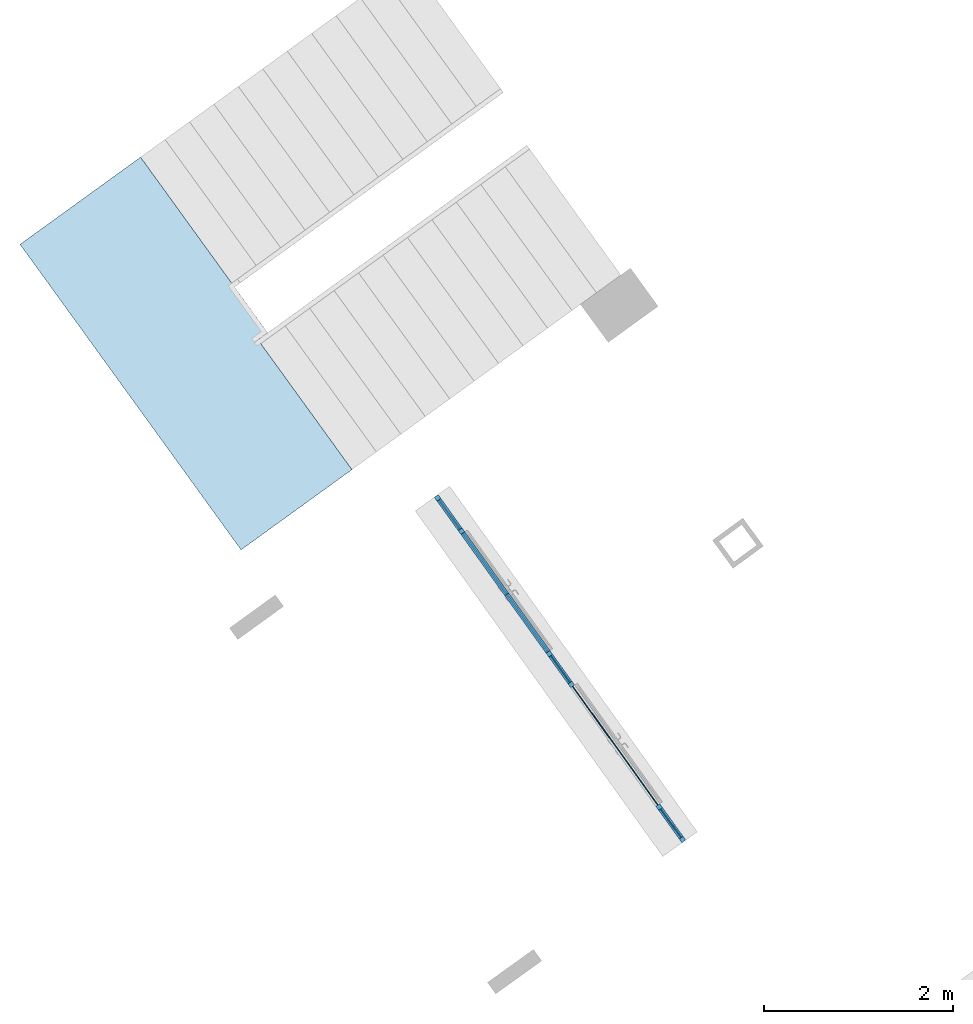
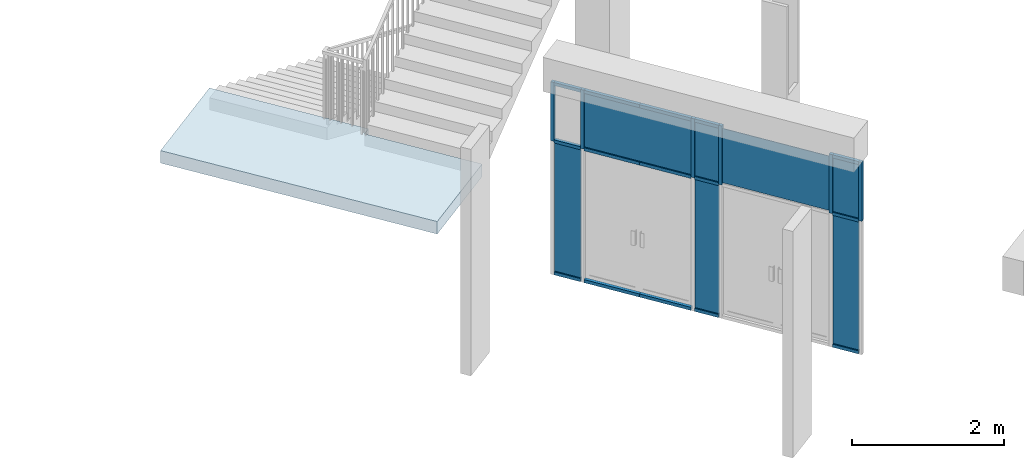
# One storey, part 9 of 24: 21 members, 7 plates, 1 slab, 2 elements without a shape of their own.
"""IFC2X3 building model written with IfcOpenShell, lengths in millimetres."""

from ifc_helpers import new_model, entity, si_unit, converted_unit, derived_unit, direction, frame, frame_2d, origin, origin_2d_with_axis, place, context, subcontext, project, spatial, polyline, rectangle, outline, extrude, source, transform, mapped, material, type_object, type_shapes, element, aggregate, save


model = new_model("IFC2X3")

# Units and contexts
model_context = context("Model", 3, precision=0.01, world=origin(), true_north=direction((6.123031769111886e-17, 1.0)))
body_context = subcontext(model_context, "Body", "Model", "MODEL_VIEW")
ifc_project = project(units=[si_unit("LENGTHUNIT", "METRE", prefix="MILLI"), si_unit("AREAUNIT", "SQUARE_METRE"), si_unit("VOLUMEUNIT", "CUBIC_METRE"), converted_unit("PLANEANGLEUNIT", "DEGREE", entity("IfcRatioMeasure", 0.017453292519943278), si_unit("PLANEANGLEUNIT", "RADIAN"), dimensions=[0, 0, 0, 0, 0, 0, 0]), si_unit("MASSUNIT", "GRAM", prefix="KILO"), derived_unit("MASSDENSITYUNIT", [(si_unit("MASSUNIT", "GRAM", prefix="KILO"), 1), (si_unit("LENGTHUNIT", "METRE"), -3)]), derived_unit("MOMENTOFINERTIAUNIT", [(si_unit("LENGTHUNIT", "METRE"), 4)]), si_unit("TIMEUNIT", "SECOND"), si_unit("FREQUENCYUNIT", "HERTZ"), si_unit("THERMODYNAMICTEMPERATUREUNIT", "DEGREE_CELSIUS"), derived_unit("THERMALTRANSMITTANCEUNIT", [(si_unit("MASSUNIT", "GRAM", prefix="KILO"), 1), (si_unit("THERMODYNAMICTEMPERATUREUNIT", "KELVIN"), -1), (si_unit("TIMEUNIT", "SECOND"), -3)]), derived_unit("THERMALCONDUCTANCEUNIT", [(si_unit("MASSUNIT", "GRAM", prefix="KILO"), 1), (si_unit("LENGTHUNIT", "METRE"), 1), (si_unit("THERMODYNAMICTEMPERATUREUNIT", "KELVIN"), -1), (si_unit("TIMEUNIT", "SECOND"), -3)]), derived_unit("VOLUMETRICFLOWRATEUNIT", [(si_unit("LENGTHUNIT", "METRE"), 3), (si_unit("TIMEUNIT", "SECOND"), -1)]), derived_unit("MASSFLOWRATEUNIT", [(si_unit("MASSUNIT", "GRAM", prefix="KILO"), 1), (si_unit("TIMEUNIT", "SECOND"), -1)]), derived_unit("ROTATIONALFREQUENCYUNIT", [(si_unit("TIMEUNIT", "SECOND"), -1)]), si_unit("ELECTRICCURRENTUNIT", "AMPERE"), si_unit("ELECTRICVOLTAGEUNIT", "VOLT"), si_unit("POWERUNIT", "WATT"), converted_unit("FORCEUNIT", "KIP", entity("IfcRatioMeasure", 2.088543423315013e-05), si_unit("FORCEUNIT", "NEWTON"), dimensions=[1, 1, -2, 0, 0, 0, 0]), si_unit("ILLUMINANCEUNIT", "LUX"), si_unit("LUMINOUSFLUXUNIT", "LUMEN"), si_unit("LUMINOUSINTENSITYUNIT", "CANDELA"), derived_unit("USERDEFINED", [(si_unit("MASSUNIT", "GRAM", prefix="KILO"), -1), (si_unit("LENGTHUNIT", "METRE"), -2), (si_unit("TIMEUNIT", "SECOND"), 3), (si_unit("LUMINOUSFLUXUNIT", "LUMEN"), 1)]), derived_unit("USERDEFINED", [(si_unit("MASSUNIT", "GRAM", prefix="KILO"), 1), (si_unit("LENGTHUNIT", "METRE"), 3), (si_unit("TIMEUNIT", "SECOND"), -3), (si_unit("ELECTRICCURRENTUNIT", "AMPERE"), -2)]), derived_unit("USERDEFINED", [(si_unit("LENGTHUNIT", "METRE"), 2), (si_unit("TIMEUNIT", "SECOND"), -2)]), derived_unit("SOUNDPOWERUNIT", [(si_unit("MASSUNIT", "GRAM", prefix="KILO"), 1), (si_unit("LENGTHUNIT", "METRE"), 2), (si_unit("TIMEUNIT", "SECOND"), -3)]), derived_unit("SOUNDPRESSUREUNIT", [(si_unit("MASSUNIT", "GRAM", prefix="KILO"), 1), (si_unit("LENGTHUNIT", "METRE"), -1), (si_unit("TIMEUNIT", "SECOND"), -2)]), derived_unit("LINEARVELOCITYUNIT", [(si_unit("LENGTHUNIT", "METRE"), 1), (si_unit("TIMEUNIT", "SECOND"), -1)]), si_unit("PRESSUREUNIT", "PASCAL"), derived_unit("USERDEFINED", [(si_unit("LENGTHUNIT", "METRE"), -2), (si_unit("MASSUNIT", "GRAM", prefix="KILO"), 1), (si_unit("TIMEUNIT", "SECOND"), -2)]), derived_unit("LINEARFORCEUNIT", [(si_unit("MASSUNIT", "GRAM", prefix="KILO"), 1), (si_unit("LENGTHUNIT", "METRE"), 1), (si_unit("TIMEUNIT", "SECOND"), -2), (si_unit("LENGTHUNIT", "METRE"), -1)]), derived_unit("PLANARFORCEUNIT", [(si_unit("MASSUNIT", "GRAM", prefix="KILO"), 1), (si_unit("LENGTHUNIT", "METRE"), 1), (si_unit("TIMEUNIT", "SECOND"), -2), (si_unit("LENGTHUNIT", "METRE"), -2)]), derived_unit("SPECIFICHEATCAPACITYUNIT", [(si_unit("LENGTHUNIT", "METRE"), 2), (si_unit("TIMEUNIT", "SECOND"), -2), (si_unit("THERMODYNAMICTEMPERATUREUNIT", "KELVIN"), -1)]), derived_unit("VAPORPERMEABILITYUNIT", [(si_unit("TIMEUNIT", "SECOND"), 1), (si_unit("LENGTHUNIT", "METRE"), -1)]), derived_unit("DYNAMICVISCOSITYUNIT", [(si_unit("MASSUNIT", "GRAM", prefix="KILO"), 1), (si_unit("LENGTHUNIT", "METRE"), -1), (si_unit("TIMEUNIT", "SECOND"), -1)]), derived_unit("THERMALEXPANSIONCOEFFICIENTUNIT", [(si_unit("THERMODYNAMICTEMPERATUREUNIT", "KELVIN"), -1)])], contexts=[model_context])

# Site, building, storey
site_placement = place(None, frame((0.0, 0.0, 0.0), z_axis=(0.0, 0.0, 1.0), x_axis=(0.8191520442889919, 0.5735764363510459, 0.0)))
site = spatial("IfcSite", under=ifc_project, at=site_placement, Name="Default", CompositionType="ELEMENT")
building_placement = place(site_placement, origin())
building = spatial("IfcBuilding", under=site, at=building_placement, CompositionType="ELEMENT")
storey_placement = place(building_placement, frame((0.0, 0.0, -1150.0)))
storey = spatial("IfcBuildingStorey", under=building, at=storey_placement, Name="6.EG KH -1.15", CompositionType="ELEMENT", Elevation=-1150.0000000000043)

# Curtain wall, members
curtain_wall_type = type_object("IfcCurtainWallType", Name="Curtain Wall:Curtain_Wall_CJC_ENTR_KH", PredefinedType="NOTDEFINED")
curtain_wall_placement = place(storey_placement, frame((0.0, 0.0, 1150.0)))
curtain_wall = element("IfcCurtainWall", 1, at=curtain_wall_placement, inside=storey, type_object=curtain_wall_type, Name="Curtain Wall:Curtain_Wall_CJC_ENTR_KH", ObjectType="Curtain Wall:Curtain_Wall_CJC_ENTR_KH")
ifc_material_1 = material(Name="Aluminium")
member_type_1 = type_object("IfcMemberType", Name="Rectangular Mullion:5x5", PredefinedType="MULLION", material=ifc_material_1)
shared_shape_1 = source(origin(), body_context, "Body", "SweptSolid", [
    extrude(rectangle(XDim=50.000000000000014, YDim=50.0, at=origin_2d_with_axis()), frame((-25.0, 0.0, -350.0283608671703), z_axis=(0.0, 0.0, 1.0), x_axis=(0.0, -1.0, 0.0)), (0.0, 0.0, 1.0), 350.0283608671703),
])
type_shapes(member_type_1, [shared_shape_1])
member_1_placement = place(curtain_wall_placement, frame((-189126.17398691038, 190818.32837445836, 1950.0), z_axis=(-0.011082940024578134, 0.999938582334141, 0.0), x_axis=(0.0, 0.0, 1.0)))
member_1 = element("IfcMember", 2, at=member_1_placement, type_object=member_type_1, material=ifc_material_1, Name="Rectangular Mullion:5x5", ObjectType="Rectangular Mullion:5x5", context=body_context, shape_type="MappedRepresentation", body=[
    mapped(shared_shape_1, transform((0.0, 0.0, 0.0), scale=1.0)),
])
member_type_2 = type_object("IfcMemberType", Name="Rectangular Mullion:5x5", PredefinedType="MULLION", material=ifc_material_1)
shared_shape_2 = source(origin(), body_context, "Body", "SweptSolid", [
    extrude(rectangle(XDim=50.0, YDim=50.0, at=origin_2d_with_axis()), frame((-25.0, 0.0, -384.58849077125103), z_axis=(0.0, 0.0, 1.0), x_axis=(0.0, -1.0, 0.0)), (0.0, 0.0, 1.0), 384.5884907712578),
])
type_shapes(member_type_2, [shared_shape_2])
member_2_placement = place(curtain_wall_placement, frame((-189148.72320912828, 192852.7919055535, 1950.0), z_axis=(-0.011082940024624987, 0.9999385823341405, 0.0), x_axis=(0.0, 0.0, 1.0)))
member_2 = element("IfcMember", 3, at=member_2_placement, type_object=member_type_2, material=ifc_material_1, Name="Rectangular Mullion:5x5", ObjectType="Rectangular Mullion:5x5", context=body_context, shape_type="MappedRepresentation", body=[
    mapped(shared_shape_2, transform((0.0, 0.0, 0.0), scale=1.0)),
])
member_type_3 = type_object("IfcMemberType", Name="Rectangular Mullion:5x5", PredefinedType="MULLION", material=ifc_material_1)
shared_shape_3 = source(origin(), body_context, "Body", "SweptSolid", [
    extrude(rectangle(XDim=50.0, YDim=50.0, at=origin_2d_with_axis()), frame((-25.0, 0.0, -375.0), z_axis=(0.0, 0.0, 1.0), x_axis=(0.0, -1.0, 0.0)), (0.0, 0.0, 1.0), 374.99999999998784),
])
type_shapes(member_type_3, [shared_shape_3])
member_3_placement = place(curtain_wall_placement, frame((-189104.00810685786, 188818.45120948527, 1950.0), z_axis=(-0.011082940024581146, 0.9999385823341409, 0.0), x_axis=(0.0, 0.0, 1.0)))
member_3 = element("IfcMember", 4, at=member_3_placement, type_object=member_type_3, material=ifc_material_1, Name="Rectangular Mullion:5x5", ObjectType="Rectangular Mullion:5x5", context=body_context, shape_type="MappedRepresentation", body=[
    mapped(shared_shape_3, transform((0.0, 0.0, 0.0), scale=1.0)),
])
member_type_4 = type_object("IfcMemberType", Name="Rectangular Mullion:5x5", PredefinedType="MULLION", material=ifc_material_1)
shared_shape_4 = source(origin(), body_context, "Body", "SweptSolid", [
    extrude(rectangle(XDim=50.000000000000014, YDim=50.0, at=origin_2d_with_axis()), frame((-25.0, 0.0, -750.0), z_axis=(0.0, 0.0, 1.0), x_axis=(0.0, -1.0, 0.0)), (0.0, 0.0, 1.0), 750.0000000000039),
])
type_shapes(member_type_4, [shared_shape_4])
member_4_placement = place(curtain_wall_placement, frame((-189135.04033893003, 191618.2792403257, 1950.0), z_axis=(-0.011082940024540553, 0.9999385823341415, 0.0), x_axis=(0.0, 0.0, 1.0)))
member_4 = element("IfcMember", 5, at=member_4_placement, type_object=member_type_4, material=ifc_material_1, Name="Rectangular Mullion:5x5", ObjectType="Rectangular Mullion:5x5", context=body_context, shape_type="MappedRepresentation", body=[
    mapped(shared_shape_4, transform((0.0, 0.0, 0.0), scale=1.0)),
])
member_type_5 = type_object("IfcMemberType", Name="Rectangular Mullion:5x5", PredefinedType="MULLION", material=ifc_material_1)
shared_shape_5 = source(origin(), body_context, "Body", "SweptSolid", [
    extrude(rectangle(XDim=50.000000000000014, YDim=50.0, at=origin_2d_with_axis()), frame((-25.0, 0.0, -375.0), z_axis=(0.0, 0.0, 1.0), x_axis=(0.0, -1.0, 0.0)), (0.0, 0.0, 1.0), 374.99999999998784),
])
type_shapes(member_type_5, [shared_shape_5])
member_5_placement = place(curtain_wall_placement, frame((-189099.85200434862, 188443.47424110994, -1150.0), z_axis=(0.011082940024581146, -0.9999385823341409, 0.0), x_axis=(0.0, 0.0, -1.0)))
member_5 = element("IfcMember", 6, at=member_5_placement, type_object=member_type_5, material=ifc_material_1, Name="Rectangular Mullion:5x5", ObjectType="Rectangular Mullion:5x5", context=body_context, shape_type="MappedRepresentation", body=[
    mapped(shared_shape_5, transform((0.0, 0.0, 0.0), scale=1.0)),
])
member_type_6 = type_object("IfcMemberType", Name="Rectangular Mullion:5x5", PredefinedType="MULLION", material=ifc_material_1)
shared_shape_6 = source(origin(), body_context, "Body", "SweptSolid", [
    extrude(rectangle(XDim=50.000000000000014, YDim=50.0, at=origin_2d_with_axis()), frame((-25.0, 0.0, -350.0), z_axis=(0.0, 0.0, 1.0), x_axis=(0.0, -1.0, 0.0)), (0.0, 0.0, 1.0), 350.0000003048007),
])
type_shapes(member_type_6, [shared_shape_6])
member_6_placement = place(curtain_wall_placement, frame((-189122.2949578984, 190468.34987033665, -1150.0), z_axis=(0.011082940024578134, -0.999938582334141, 0.0), x_axis=(0.0, 0.0, -1.0)))
member_6 = element("IfcMember", 7, at=member_6_placement, type_object=member_type_6, material=ifc_material_1, Name="Rectangular Mullion:5x5", ObjectType="Rectangular Mullion:5x5", context=body_context, shape_type="MappedRepresentation", body=[
    mapped(shared_shape_6, transform((0.0, 0.0, 0.0), scale=1.0)),
])
member_type_7 = type_object("IfcMemberType", Name="Rectangular Mullion:5x5", PredefinedType="MULLION", material=ifc_material_1)
shared_shape_7 = source(origin(), body_context, "Body", "SweptSolid", [
    extrude(rectangle(XDim=50.0, YDim=50.0, at=origin_2d_with_axis()), frame((-25.0, 0.0, -750.0), z_axis=(0.0, 0.0, 1.0), x_axis=(0.0, -1.0, 0.0)), (0.0, 0.0, 1.0), 750.000000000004),
])
type_shapes(member_type_7, [shared_shape_7])
member_7_placement = place(curtain_wall_placement, frame((-189126.72813391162, 190868.32530357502, -1150.0), z_axis=(0.011082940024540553, -0.9999385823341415, 0.0), x_axis=(0.0, 0.0, -1.0)))
member_7 = element("IfcMember", 8, at=member_7_placement, type_object=member_type_7, material=ifc_material_1, Name="Rectangular Mullion:5x5", ObjectType="Rectangular Mullion:5x5", context=body_context, shape_type="MappedRepresentation", body=[
    mapped(shared_shape_7, transform((0.0, 0.0, 0.0), scale=1.0)),
])
member_type_8 = type_object("IfcMemberType", Name="Rectangular Mullion:5x5", PredefinedType="MULLION", material=ifc_material_1)
shared_shape_8 = source(origin(), body_context, "Body", "SweptSolid", [
    extrude(rectangle(XDim=50.000000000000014, YDim=50.0, at=origin_2d_with_axis()), frame((-25.0, 0.0, -800.0), z_axis=(0.0, 0.0, 1.0), x_axis=(0.0, -1.0, 0.0)), (0.0, 0.0, 1.0), 799.9999999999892),
])
type_shapes(member_type_8, [shared_shape_8])
member_8_placement = place(curtain_wall_placement, frame((-189135.04033893, 191618.2792403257, -1150.0), z_axis=(0.011082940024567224, -0.9999385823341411, 0.0), x_axis=(0.0, 0.0, -1.0)))
member_8 = element("IfcMember", 9, at=member_8_placement, type_object=member_type_8, material=ifc_material_1, Name="Rectangular Mullion:5x5", ObjectType="Rectangular Mullion:5x5", context=body_context, shape_type="MappedRepresentation", body=[
    mapped(shared_shape_8, transform((0.0, 0.0, 0.0), scale=1.0)),
])
member_type_9 = type_object("IfcMemberType", Name="Rectangular Mullion:5x5", PredefinedType="MULLION", material=ifc_material_1)
shared_shape_9 = source(origin(), body_context, "Body", "SweptSolid", [
    extrude(rectangle(XDim=50.0, YDim=50.0, at=origin_2d_with_axis()), frame((-25.0, 0.0, -950.0), z_axis=(0.0, 0.0, 1.0), x_axis=(0.0, -1.0, 0.0)), (0.0, 0.0, 1.0), 950.0000000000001),
])
type_shapes(member_type_9, [shared_shape_9])
member_9_placement = place(curtain_wall_placement, frame((-189099.29785734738, 188393.47731199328, 1950.0), z_axis=(0.0, 0.0, 1.0), x_axis=(0.011082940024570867, -0.999938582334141, 0.0)))
member_9 = element("IfcMember", 10, at=member_9_placement, type_object=member_type_9, material=ifc_material_1, Name="Rectangular Mullion:5x5", ObjectType="Rectangular Mullion:5x5", context=body_context, shape_type="MappedRepresentation", body=[
    mapped(shared_shape_9, transform((0.0, 0.0, 0.0), scale=1.0)),
])
member_type_10 = type_object("IfcMemberType", Name="Rectangular Mullion:5x5", PredefinedType="MULLION", material=ifc_material_1)
shared_shape_10 = source(origin(), body_context, "Body", "SweptSolid", [
    extrude(rectangle(XDim=49.99999999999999, YDim=50.0, at=origin_2d_with_axis()), frame((-25.0, 0.0, -950.0), z_axis=(0.0, 0.0, 1.0), x_axis=(0.0, -1.0, 0.0)), (0.0, 0.0, 1.0), 949.9999999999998),
])
type_shapes(member_type_10, [shared_shape_10])
member_10_placement = place(curtain_wall_placement, frame((-189149.2773561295, 192902.78883467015, 1000.0), z_axis=(0.0, 0.0, -1.0), x_axis=(-0.011082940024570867, 0.999938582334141, 0.0)))
member_10 = element("IfcMember", 11, at=member_10_placement, type_object=member_type_10, material=ifc_material_1, Name="Rectangular Mullion:5x5", ObjectType="Rectangular Mullion:5x5", context=body_context, shape_type="MappedRepresentation", body=[
    mapped(shared_shape_10, transform((0.0, 0.0, 0.0), scale=1.0)),
])
member_type_11 = type_object("IfcMemberType", Name="Rectangular Mullion:5x5", PredefinedType="MULLION", material=ifc_material_1)
shared_shape_11 = source(origin(), body_context, "Body", "SweptSolid", [
    extrude(rectangle(XDim=50.0, YDim=50.0, at=origin_2d_with_axis()), frame((0.0, 0.0, -950.0), z_axis=(0.0, 0.0, 1.0), x_axis=(0.0, -1.0, 0.0)), (0.0, 0.0, 1.0), 949.9999999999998),
])
type_shapes(member_type_11, [shared_shape_11])
member_11_placement = place(curtain_wall_placement, frame((-189104.28518035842, 188843.44967404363, 1000.0), z_axis=(0.0, 0.0, -1.0), x_axis=(-0.011082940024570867, 0.999938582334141, 0.0)))
member_11 = element("IfcMember", 12, at=member_11_placement, type_object=member_type_11, material=ifc_material_1, Name="Rectangular Mullion:5x5", ObjectType="Rectangular Mullion:5x5", context=body_context, shape_type="MappedRepresentation", body=[
    mapped(shared_shape_11, transform((0.0, 0.0, 0.0), scale=1.0)),
])
member_12_placement = place(curtain_wall_placement, frame((-189122.01788439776, 190443.35140577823, 1000.0), z_axis=(0.0, 0.0, -1.0), x_axis=(-0.011082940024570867, 0.999938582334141, 0.0)))
member_12 = element("IfcMember", 13, at=member_12_placement, type_object=member_type_11, material=ifc_material_1, Name="Rectangular Mullion:5x5", ObjectType="Rectangular Mullion:5x5", context=body_context, shape_type="MappedRepresentation", body=[
    mapped(shared_shape_11, transform((0.0, 0.0, 0.0), scale=1.0)),
])
member_13_placement = place(curtain_wall_placement, frame((-189126.45106041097, 190843.32683901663, 1000.0), z_axis=(0.0, 0.0, -1.0), x_axis=(-0.011082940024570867, 0.999938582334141, 0.0)))
member_13 = element("IfcMember", 14, at=member_13_placement, type_object=member_type_11, material=ifc_material_1, Name="Rectangular Mullion:5x5", ObjectType="Rectangular Mullion:5x5", context=body_context, shape_type="MappedRepresentation", body=[
    mapped(shared_shape_11, transform((0.0, 0.0, 0.0), scale=1.0)),
])
member_14_placement = place(curtain_wall_placement, frame((-189144.18376445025, 192443.22857075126, 1000.0), z_axis=(0.0, 0.0, -1.0), x_axis=(-0.011082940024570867, 0.999938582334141, 0.0)))
member_14 = element("IfcMember", 15, at=member_14_placement, type_object=member_type_11, material=ifc_material_1, Name="Rectangular Mullion:5x5", ObjectType="Rectangular Mullion:5x5", context=body_context, shape_type="MappedRepresentation", body=[
    mapped(shared_shape_11, transform((0.0, 0.0, 0.0), scale=1.0)),
])
member_type_12 = type_object("IfcMemberType", Name="Rectangular Mullion:5x5", PredefinedType="MULLION", material=ifc_material_1)
shared_shape_12 = source(origin(), body_context, "Body", "SweptSolid", [
    extrude(rectangle(XDim=50.0, YDim=50.0, at=origin_2d_with_axis()), frame((0.0, 0.0, -375.0), z_axis=(0.0, 0.0, 1.0), x_axis=(0.0, -1.0, 0.0)), (0.0, 0.0, 1.0), 374.99999999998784),
])
type_shapes(member_type_12, [shared_shape_12])
member_15_placement = place(curtain_wall_placement, frame((-189104.00810685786, 188818.45120948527, 1000.0), z_axis=(-0.011082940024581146, 0.9999385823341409, 0.0), x_axis=(0.0, 0.0, 1.0)))
member_15 = element("IfcMember", 16, at=member_15_placement, type_object=member_type_12, material=ifc_material_1, Name="Rectangular Mullion:5x5", ObjectType="Rectangular Mullion:5x5", context=body_context, shape_type="MappedRepresentation", body=[
    mapped(shared_shape_12, transform((0.0, 0.0, 0.0), scale=1.0)),
])
member_type_13 = type_object("IfcMemberType", Name="Rectangular Mullion:5x5", PredefinedType="MULLION", material=ifc_material_1)
shared_shape_13 = source(origin(), body_context, "Body", "SweptSolid", [
    extrude(rectangle(XDim=50.0, YDim=50.0, at=origin_2d_with_axis()), frame((0.0, 0.0, -350.0), z_axis=(0.0, 0.0, 1.0), x_axis=(0.0, -1.0, 0.0)), (0.0, 0.0, 1.0), 350.00000030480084),
])
type_shapes(member_type_13, [shared_shape_13])
member_16_placement = place(curtain_wall_placement, frame((-189126.17398691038, 190818.32837445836, 1000.0), z_axis=(-0.011082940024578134, 0.999938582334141, 0.0), x_axis=(0.0, 0.0, 1.0)))
member_16 = element("IfcMember", 17, at=member_16_placement, type_object=member_type_13, material=ifc_material_1, Name="Rectangular Mullion:5x5", ObjectType="Rectangular Mullion:5x5", context=body_context, shape_type="MappedRepresentation", body=[
    mapped(shared_shape_13, transform((0.0, 0.0, 0.0), scale=1.0)),
])
member_type_14 = type_object("IfcMemberType", Name="Rectangular Mullion:5x5", PredefinedType="MULLION", material=ifc_material_1)
shared_shape_14 = source(origin(), body_context, "Body", "SweptSolid", [
    extrude(rectangle(XDim=50.0, YDim=50.0, at=origin_2d_with_axis()), frame((0.0, 0.0, -750.0), z_axis=(0.0, 0.0, 1.0), x_axis=(0.0, -1.0, 0.0)), (0.0, 0.0, 1.0), 750.000000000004),
])
type_shapes(member_type_14, [shared_shape_14])
member_17_placement = place(curtain_wall_placement, frame((-189135.04033893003, 191618.2792403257, 1000.0), z_axis=(-0.011082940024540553, 0.9999385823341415, 0.0), x_axis=(0.0, 0.0, 1.0)))
member_17 = element("IfcMember", 18, at=member_17_placement, type_object=member_type_14, material=ifc_material_1, Name="Rectangular Mullion:5x5", ObjectType="Rectangular Mullion:5x5", context=body_context, shape_type="MappedRepresentation", body=[
    mapped(shared_shape_14, transform((0.0, 0.0, 0.0), scale=1.0)),
])
member_type_15 = type_object("IfcMemberType", Name="Rectangular Mullion:5x5", PredefinedType="MULLION", material=ifc_material_1)
shared_shape_15 = source(origin(), body_context, "Body", "SweptSolid", [
    extrude(rectangle(XDim=50.0, YDim=50.0, at=origin_2d_with_axis()), frame((0.0, 0.0, -800.0), z_axis=(0.0, 0.0, 1.0), x_axis=(0.0, -1.0, 0.0)), (0.0, 0.0, 1.0), 799.9999999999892),
])
type_shapes(member_type_15, [shared_shape_15])
member_18_placement = place(curtain_wall_placement, frame((-189143.9066909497, 192418.23010619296, 1000.0), z_axis=(-0.011082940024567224, 0.9999385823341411, 0.0), x_axis=(0.0, 0.0, 1.0)))
member_18 = element("IfcMember", 19, at=member_18_placement, type_object=member_type_15, material=ifc_material_1, Name="Rectangular Mullion:5x5", ObjectType="Rectangular Mullion:5x5", context=body_context, shape_type="MappedRepresentation", body=[
    mapped(shared_shape_15, transform((0.0, 0.0, 0.0), scale=1.0)),
])
member_type_16 = type_object("IfcMemberType", Name="Rectangular Mullion:5x5", PredefinedType="MULLION", material=ifc_material_1)
shared_shape_16 = source(origin(), body_context, "Body", "SweptSolid", [
    extrude(rectangle(XDim=50.000000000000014, YDim=50.0, at=origin_2d_with_axis()), frame((-25.0, 0.0, -800.0), z_axis=(0.0, 0.0, 1.0), x_axis=(0.0, -1.0, 0.0)), (0.0, 0.0, 1.0), 799.999999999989),
])
type_shapes(member_type_16, [shared_shape_16])
member_19_placement = place(curtain_wall_placement, frame((-189143.9066909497, 192418.23010619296, 1950.0), z_axis=(-0.011082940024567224, 0.9999385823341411, 0.0), x_axis=(0.0, 0.0, 1.0)))
member_19 = element("IfcMember", 20, at=member_19_placement, type_object=member_type_16, material=ifc_material_1, Name="Rectangular Mullion:5x5", ObjectType="Rectangular Mullion:5x5", context=body_context, shape_type="MappedRepresentation", body=[
    mapped(shared_shape_16, transform((0.0, 0.0, 0.0), scale=1.0)),
])
member_type_17 = type_object("IfcMemberType", Name="Rectangular Mullion:5x5", PredefinedType="MULLION", material=ifc_material_1)
shared_shape_17 = source(origin(), body_context, "Body", "SweptSolid", [
    extrude(rectangle(XDim=50.000000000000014, YDim=50.0, at=origin_2d_with_axis()), frame((-25.0, 0.0, -384.5884907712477), z_axis=(0.0, 0.0, 1.0), x_axis=(0.0, -1.0, 0.0)), (0.0, 0.0, 1.0), 384.5884907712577),
])
type_shapes(member_type_17, [shared_shape_17])
member_20_placement = place(curtain_wall_placement, frame((-189144.4608379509, 192468.22703530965, -1150.0), z_axis=(0.011082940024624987, -0.9999385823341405, 0.0), x_axis=(0.0, 0.0, -1.0)))
member_20 = element("IfcMember", 21, at=member_20_placement, type_object=member_type_17, material=ifc_material_1, Name="Rectangular Mullion:5x5", ObjectType="Rectangular Mullion:5x5", context=body_context, shape_type="MappedRepresentation", body=[
    mapped(shared_shape_17, transform((0.0, 0.0, 0.0), scale=1.0)),
])
member_type_18 = type_object("IfcMemberType", Name="Rectangular Mullion:5x5", PredefinedType="MULLION", material=ifc_material_1)
shared_shape_18 = source(origin(), body_context, "Body", "SweptSolid", [
    extrude(rectangle(XDim=50.0, YDim=50.0, at=origin_2d_with_axis()), frame((0.0, 0.0, -384.5884907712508), z_axis=(0.0, 0.0, 1.0), x_axis=(0.0, -1.0, 0.0)), (0.0, 0.0, 1.0), 384.58849077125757),
])
type_shapes(member_type_18, [shared_shape_18])
member_21_placement = place(curtain_wall_placement, frame((-189148.72320912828, 192852.7919055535, 1000.0), z_axis=(-0.011082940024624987, 0.9999385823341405, 0.0), x_axis=(0.0, 0.0, 1.0)))
member_21 = element("IfcMember", 22, at=member_21_placement, type_object=member_type_18, material=ifc_material_1, Name="Rectangular Mullion:5x5", ObjectType="Rectangular Mullion:5x5", context=body_context, shape_type="MappedRepresentation", body=[
    mapped(shared_shape_18, transform((0.0, 0.0, 0.0), scale=1.0)),
])

# Stair, slab
stair_placement = place(storey_placement, origin())
stair = element("IfcStair", 23, at=stair_placement, inside=storey, Name="Precast Stair:Stair", ObjectType="Precast Stair:Stair_CJC_KH", ShapeType="HALF_TURN_STAIR")
ifc_material_2 = material(Name="Concrete, Cast-in-Place gray")
slab_type = type_object("IfcSlabType", Name="Monolithic Landing:200mm_Thickness", PredefinedType="LANDING")
slab_placement = place(stair_placement, origin())
slab = element("IfcSlab", 24, at=slab_placement, type_object=slab_type, material=ifc_material_2, Name="Precast Stair:Stair:623352 Landing 1", ObjectType="Monolithic Landing:200mm_Thickness", PredefinedType="LANDING", context=body_context, shape_type="SweptSolid", body=[
    extrude(outline(polyline([(374.75353431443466, -441.9865435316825), (2074.753534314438, -441.9865435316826), (2074.7535343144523, 1136.73685721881), (-1925.3643541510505, 1136.6443683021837), (-1925.330770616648, -315.83341208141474), (-225.33077107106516, -315.79410545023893), (-224.11735355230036, -315.7940773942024), (-224.1173535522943, -441.9865435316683), (374.75353431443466, -441.9865435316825)])), frame((-190066.46215374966, 195564.18031959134, 1899.0), z_axis=(0.0, 0.0, 1.0), x_axis=(-0.015452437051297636, 0.9998806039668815, 0.0)), (0.0, 0.0, 1.0), 1.0000000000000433),
    extrude(outline(polyline([(-441.98654353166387, -2074.7535343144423), (1136.7368572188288, -2074.7535343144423), (1136.6443683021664, 1925.3643541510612), (-315.83341208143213, 1925.3307706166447), (-315.79410545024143, 225.33077107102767), (-315.7940773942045, 224.11735355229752), (-441.9865435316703, 224.1173535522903), (-441.9865435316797, -374.75353431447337), (-441.98654353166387, -2074.7535343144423)])), frame((-190066.46215374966, 195564.18031959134, 1699.0), z_axis=(0.0, 0.0, 1.0), x_axis=(-0.9998806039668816, -0.01545243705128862, 0.0)), (0.0, 0.0, 1.0), 200.0),
])
aggregate(stair, [slab])

# Plate
ifc_material_3 = material(Name="Glass")
plate_type_1 = type_object("IfcPlateType", Name="System Panel:Glazed_CJC", PredefinedType="CURTAIN_PANEL", material=ifc_material_3)
shared_shape_19 = source(origin(), body_context, "Body", "SweptSolid", [
    extrude(rectangle(XDim=10.0, YDim=374.99999999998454, at=frame_2d((0.0, 1.0231815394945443e-12), x_axis=(1.0, 0.0))), frame((0.0, 0.0, 0.0), z_axis=(0.0, 0.0, 1.0), x_axis=(0.0, 1.0, 0.0)), (0.0, 0.0, 1.0), 2075.0000000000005),
])
type_shapes(plate_type_1, [shared_shape_19])
plate_1_placement = place(curtain_wall_placement, frame((-189101.93005560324, 188630.96272529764, -1100.0), z_axis=(0.0, 0.0, 1.0), x_axis=(-0.011082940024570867, 0.999938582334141, 0.0)))
plate_1 = element("IfcPlate", 25, at=plate_1_placement, type_object=plate_type_1, material=ifc_material_3, Name="System Panel:Glazed_CJC", ObjectType="System Panel:Glazed_CJC", context=body_context, shape_type="MappedRepresentation", body=[
    mapped(shared_shape_19, transform((0.0, 0.0, 0.0), scale=1.0)),
])

plate_type_2 = type_object("IfcPlateType", Name="System Panel:Glazed_CJC", PredefinedType="CURTAIN_PANEL", material=ifc_material_3)
shared_shape_20 = source(origin(), body_context, "Body", "SweptSolid", [
    extrude(rectangle(XDim=10.0, YDim=350.00000030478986, at=frame_2d((0.0, 3.709033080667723e-12), x_axis=(1.0, 0.0))), frame((0.0, 0.0, 0.0), z_axis=(0.0, 0.0, 1.0), x_axis=(0.0, 1.0, 0.0)), (0.0, 0.0, 1.0), 2075.0000000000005),
])
type_shapes(plate_type_2, [shared_shape_20])
plate_2_placement = place(curtain_wall_placement, frame((-189124.23447240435, 190643.33912239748, -1100.0), z_axis=(0.0, 0.0, 1.0), x_axis=(-0.011082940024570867, 0.999938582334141, 0.0)))
plate_2 = element("IfcPlate", 26, at=plate_2_placement, type_object=plate_type_2, material=ifc_material_3, Name="System Panel:Glazed_CJC", ObjectType="System Panel:Glazed_CJC", context=body_context, shape_type="MappedRepresentation", body=[
    mapped(shared_shape_20, transform((0.0, 0.0, 0.0), scale=1.0)),
])

plate_type_3 = type_object("IfcPlateType", Name="System Panel:Glazed_CJC", PredefinedType="CURTAIN_PANEL", material=ifc_material_3)
shared_shape_21 = source(origin(), body_context, "Body", "SweptSolid", [
    extrude(rectangle(XDim=10.0, YDim=384.58849077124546, at=frame_2d((0.0, 4.249045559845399e-12), x_axis=(1.0, 0.0))), frame((0.0, 0.0, 0.0), z_axis=(0.0, 0.0, 1.0), x_axis=(0.0, 1.0, 0.0)), (0.0, 0.0, 1.0), 2075.0000000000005),
])
type_shapes(plate_type_3, [shared_shape_21])
plate_3_placement = place(curtain_wall_placement, frame((-189146.59202353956, 192660.50947043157, -1100.0), z_axis=(0.0, 0.0, 1.0), x_axis=(-0.011082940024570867, 0.999938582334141, 0.0)))
plate_3 = element("IfcPlate", 27, at=plate_3_placement, type_object=plate_type_3, material=ifc_material_3, Name="System Panel:Glazed_CJC", ObjectType="System Panel:Glazed_CJC", context=body_context, shape_type="MappedRepresentation", body=[
    mapped(shared_shape_21, transform((0.0, 0.0, 0.0), scale=1.0)),
])

plate_type_4 = type_object("IfcPlateType", Name="System Panel:Glazed_CJC", PredefinedType="CURTAIN_PANEL", material=ifc_material_3)
shared_shape_22 = source(origin(), body_context, "Body", "SweptSolid", [
    extrude(rectangle(XDim=10.0, YDim=374.99999999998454, at=frame_2d((0.0, 1.0231815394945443e-12), x_axis=(1.0, 0.0))), frame((0.0, 0.0, 0.0), z_axis=(0.0, 0.0, 1.0), x_axis=(0.0, 1.0, 0.0)), (0.0, 0.0, 1.0), 874.9999999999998),
])
type_shapes(plate_type_4, [shared_shape_22])
plate_4_placement = place(curtain_wall_placement, frame((-189101.93005560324, 188630.96272529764, 1025.0), z_axis=(0.0, 0.0, 1.0), x_axis=(-0.011082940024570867, 0.999938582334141, 0.0)))
plate_4 = element("IfcPlate", 28, at=plate_4_placement, type_object=plate_type_4, material=ifc_material_3, Name="System Panel:Glazed_CJC", ObjectType="System Panel:Glazed_CJC", context=body_context, shape_type="MappedRepresentation", body=[
    mapped(shared_shape_22, transform((0.0, 0.0, 0.0), scale=1.0)),
])

plate_type_5 = type_object("IfcPlateType", Name="System Panel:Glazed_CJC", PredefinedType="CURTAIN_PANEL", material=ifc_material_3)
shared_shape_23 = source(origin(), body_context, "Body", "SweptSolid", [
    extrude(rectangle(XDim=10.0, YDim=1549.9999999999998, at=frame_2d((0.0, 4.718003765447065e-12), x_axis=(1.0, 0.0))), frame((0.0, 0.0, 0.0), z_axis=(0.0, 0.0, 1.0), x_axis=(0.0, 1.0, 0.0)), (0.0, 0.0, 1.0), 874.9999999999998),
])
type_shapes(plate_type_5, [shared_shape_23])
plate_5_placement = place(curtain_wall_placement, frame((-189113.15153237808, 189643.40053991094, 1025.0), z_axis=(0.0, 0.0, 1.0), x_axis=(-0.011082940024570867, 0.999938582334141, 0.0)))
plate_5 = element("IfcPlate", 29, at=plate_5_placement, type_object=plate_type_5, material=ifc_material_3, Name="System Panel:Glazed_CJC", ObjectType="System Panel:Glazed_CJC", context=body_context, shape_type="MappedRepresentation", body=[
    mapped(shared_shape_23, transform((0.0, 0.0, 0.0), scale=1.0)),
])

plate_type_6 = type_object("IfcPlateType", Name="System Panel:Glazed_CJC", PredefinedType="CURTAIN_PANEL", material=ifc_material_3)
shared_shape_24 = source(origin(), body_context, "Body", "SweptSolid", [
    extrude(rectangle(XDim=10.0, YDim=350.00000030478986, at=frame_2d((0.0, 3.709033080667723e-12), x_axis=(1.0, 0.0))), frame((0.0, 0.0, 0.0), z_axis=(0.0, 0.0, 1.0), x_axis=(0.0, 1.0, 0.0)), (0.0, 0.0, 1.0), 874.9999999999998),
])
type_shapes(plate_type_6, [shared_shape_24])
plate_6_placement = place(curtain_wall_placement, frame((-189124.23447240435, 190643.33912239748, 1025.0), z_axis=(0.0, 0.0, 1.0), x_axis=(-0.011082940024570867, 0.999938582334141, 0.0)))
plate_6 = element("IfcPlate", 30, at=plate_6_placement, type_object=plate_type_6, material=ifc_material_3, Name="System Panel:Glazed_CJC", ObjectType="System Panel:Glazed_CJC", context=body_context, shape_type="MappedRepresentation", body=[
    mapped(shared_shape_24, transform((0.0, 0.0, 0.0), scale=1.0)),
])

plate_type_7 = type_object("IfcPlateType", Name="System Panel:Glazed_CJC", PredefinedType="CURTAIN_PANEL", material=ifc_material_3)
shared_shape_25 = source(origin(), body_context, "Body", "SweptSolid", [
    extrude(rectangle(XDim=874.9999999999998, YDim=1550.0000000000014, at=frame_2d((0.0, 8.333333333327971), x_axis=(1.0, 0.0))), frame((-8.333333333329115, -5.0, 437.4999999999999), z_axis=(0.0, 1.0, 0.0), x_axis=(0.0, 0.0, 1.0)), (0.0, 0.0, 1.0), 10.0),
])
type_shapes(plate_type_7, [shared_shape_25])
plate_7_placement = place(curtain_wall_placement, frame((-189135.3174124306, 191643.27770488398, 1025.0), z_axis=(0.0, 0.0, 1.0), x_axis=(-0.011082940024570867, 0.999938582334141, 0.0)))
plate_7 = element("IfcPlate", 31, at=plate_7_placement, type_object=plate_type_7, material=ifc_material_3, Name="System Panel:Glazed_CJC", ObjectType="System Panel:Glazed_CJC", context=body_context, shape_type="MappedRepresentation", body=[
    mapped(shared_shape_25, transform((0.0, 0.0, 0.0), scale=1.0)),
])

aggregate(curtain_wall, [plate_1, plate_2, plate_3, plate_4, plate_5, plate_6, plate_7, member_2, member_3, member_1, member_4, member_5, member_6, member_7, member_8, member_9, member_10, member_11, member_12, member_13, member_15, member_16, member_17, member_18, member_19, member_20, member_21, member_14])

save(model, "model.ifc")
